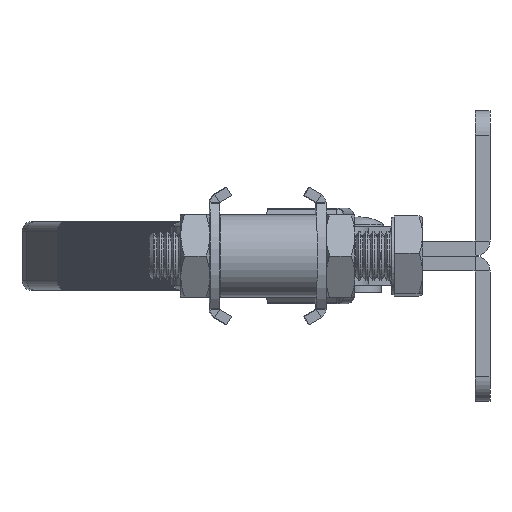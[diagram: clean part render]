
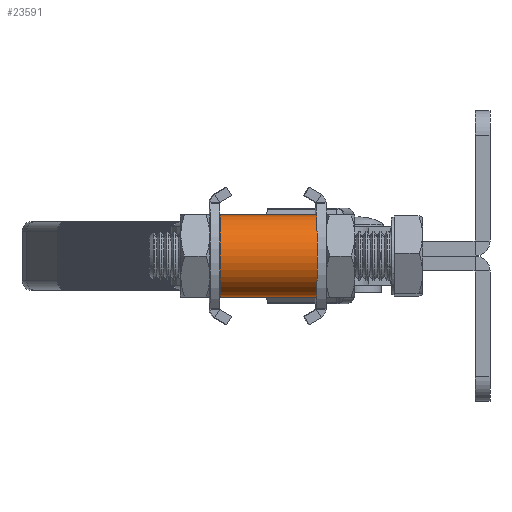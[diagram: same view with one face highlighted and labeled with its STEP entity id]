
A CAD part, left-side view. The second image highlights one B-rep face of the part: STEP entity #23591.
In plain terms, the highlighted cylindrical face has radius 8.5 mm (diameter 17 mm), a partial arc.
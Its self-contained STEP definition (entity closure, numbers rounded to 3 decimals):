
#1519 = DIRECTION ( 'NONE',  ( 0., -1., 0. ) ) ;
#2425 = AXIS2_PLACEMENT_3D ( 'NONE', #57154, #1519, #52475 ) ;
#5404 = ORIENTED_EDGE ( 'NONE', *, *, #30706, .T. ) ;
#6258 = DIRECTION ( 'NONE',  ( 0., -1., 0. ) ) ;
#6494 = CARTESIAN_POINT ( 'NONE',  ( -91., -9., 8.5 ) ) ;
#10825 = DIRECTION ( 'NONE',  ( 0., -1., 0. ) ) ;
#13212 = CARTESIAN_POINT ( 'NONE',  ( -91., 11., 0. ) ) ;
#13279 = VERTEX_POINT ( 'NONE', #18228 ) ;
#13369 = DIRECTION ( 'NONE',  ( 0., -1., 0. ) ) ;
#16041 = EDGE_CURVE ( 'NONE', #13279, #31286, #30163, .T. ) ;
#16332 = CIRCLE ( 'NONE', #47142, 8.5 ) ;
#17877 = DIRECTION ( 'NONE',  ( 0., 0., 1. ) ) ;
#18228 = CARTESIAN_POINT ( 'NONE',  ( -91., 11., -8.5 ) ) ;
#19818 = VECTOR ( 'NONE', #13369, 1000. ) ;
#19997 = CYLINDRICAL_SURFACE ( 'NONE', #2425, 8.5 ) ;
#21473 = FACE_OUTER_BOUND ( 'NONE', #32336, .T. ) ;
#22728 = CARTESIAN_POINT ( 'NONE',  ( -91., 20.5, 8.5 ) ) ;
#22930 = ORIENTED_EDGE ( 'NONE', *, *, #16041, .F. ) ;
#23591 = ADVANCED_FACE ( 'NONE', ( #21473 ), #19997, .T. ) ;
#29424 = CARTESIAN_POINT ( 'NONE',  ( -91., 20.5, -8.5 ) ) ;
#30163 = CIRCLE ( 'NONE', #37898, 8.5 ) ;
#30706 = EDGE_CURVE ( 'NONE', #13279, #40496, #53664, .T. ) ;
#31286 = VERTEX_POINT ( 'NONE', #39102 ) ;
#32336 = EDGE_LOOP ( 'NONE', ( #41373, #37223, #22930, #5404 ) ) ;
#37223 = ORIENTED_EDGE ( 'NONE', *, *, #52889, .F. ) ;
#37898 = AXIS2_PLACEMENT_3D ( 'NONE', #13212, #45679, #17877 ) ;
#38686 = CARTESIAN_POINT ( 'NONE',  ( -91., -9., 0. ) ) ;
#39102 = CARTESIAN_POINT ( 'NONE',  ( -91., 11., 8.5 ) ) ;
#40496 = VERTEX_POINT ( 'NONE', #47613 ) ;
#41315 = VECTOR ( 'NONE', #6258, 1000. ) ;
#41373 = ORIENTED_EDGE ( 'NONE', *, *, #56670, .F. ) ;
#43312 = DIRECTION ( 'NONE',  ( 0., 0., -1. ) ) ;
#44518 = LINE ( 'NONE', #22728, #19818 ) ;
#45679 = DIRECTION ( 'NONE',  ( 0., 1., 0. ) ) ;
#47142 = AXIS2_PLACEMENT_3D ( 'NONE', #38686, #10825, #43312 ) ;
#47613 = CARTESIAN_POINT ( 'NONE',  ( -91., -9., -8.5 ) ) ;
#52475 = DIRECTION ( 'NONE',  ( 0., 0., -1. ) ) ;
#52889 = EDGE_CURVE ( 'NONE', #31286, #54256, #44518, .T. ) ;
#53664 = LINE ( 'NONE', #29424, #41315 ) ;
#54256 = VERTEX_POINT ( 'NONE', #6494 ) ;
#56670 = EDGE_CURVE ( 'NONE', #54256, #40496, #16332, .T. ) ;
#57154 = CARTESIAN_POINT ( 'NONE',  ( -91., 20.5, 0. ) ) ;
